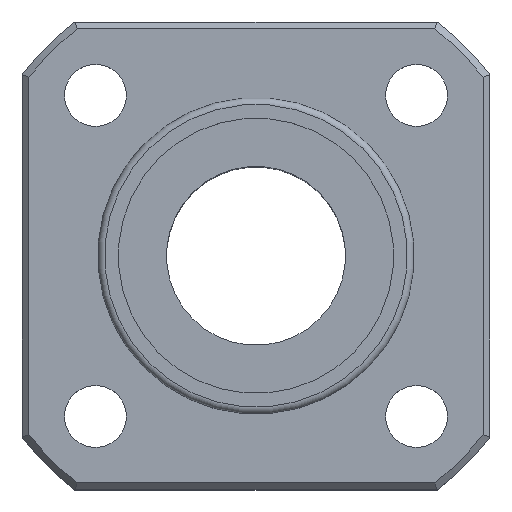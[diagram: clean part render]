
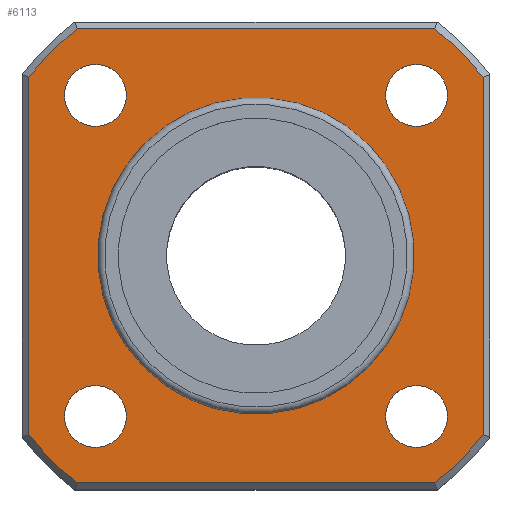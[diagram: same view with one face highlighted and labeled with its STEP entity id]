
A CAD part, top view. The second image highlights one B-rep face of the part: STEP entity #6113.
In plain terms, the highlighted planar face has unit normal (0, 0, 1).
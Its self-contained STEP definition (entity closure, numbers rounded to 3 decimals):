
#129=CIRCLE('',#6486,21.);
#131=CIRCLE('',#6491,21.);
#134=CIRCLE('',#6497,21.);
#150=CIRCLE('',#6521,11.5);
#156=CIRCLE('',#6532,21.);
#157=CIRCLE('',#6533,2.25);
#158=CIRCLE('',#6534,2.25);
#159=CIRCLE('',#6535,2.25);
#160=CIRCLE('',#6536,2.25);
#633=ORIENTED_EDGE('',*,*,#2347,.T.);
#634=ORIENTED_EDGE('',*,*,#2389,.T.);
#635=ORIENTED_EDGE('',*,*,#2354,.T.);
#636=ORIENTED_EDGE('',*,*,#2390,.T.);
#637=ORIENTED_EDGE('',*,*,#2363,.T.);
#638=ORIENTED_EDGE('',*,*,#2391,.T.);
#639=ORIENTED_EDGE('',*,*,#2392,.T.);
#640=ORIENTED_EDGE('',*,*,#2393,.T.);
#641=ORIENTED_EDGE('',*,*,#2394,.F.);
#642=ORIENTED_EDGE('',*,*,#2395,.F.);
#643=ORIENTED_EDGE('',*,*,#2396,.F.);
#644=ORIENTED_EDGE('',*,*,#2397,.F.);
#645=ORIENTED_EDGE('',*,*,#2381,.T.);
#2347=EDGE_CURVE('',#3230,#3229,#129,.T.);
#2354=EDGE_CURVE('',#3233,#3234,#131,.T.);
#2363=EDGE_CURVE('',#3239,#3240,#134,.T.);
#2381=EDGE_CURVE('',#3257,#3257,#150,.F.);
#2389=EDGE_CURVE('',#3229,#3233,#3760,.T.);
#2390=EDGE_CURVE('',#3234,#3239,#3761,.T.);
#2391=EDGE_CURVE('',#3240,#3264,#3762,.T.);
#2392=EDGE_CURVE('',#3264,#3265,#156,.T.);
#2393=EDGE_CURVE('',#3265,#3230,#3763,.T.);
#2394=EDGE_CURVE('',#3266,#3266,#157,.T.);
#2395=EDGE_CURVE('',#3267,#3267,#158,.T.);
#2396=EDGE_CURVE('',#3268,#3268,#159,.T.);
#2397=EDGE_CURVE('',#3269,#3269,#160,.T.);
#3229=VERTEX_POINT('',#9647);
#3230=VERTEX_POINT('',#9649);
#3233=VERTEX_POINT('',#9671);
#3234=VERTEX_POINT('',#9672);
#3239=VERTEX_POINT('',#9701);
#3240=VERTEX_POINT('',#9702);
#3257=VERTEX_POINT('',#9751);
#3264=VERTEX_POINT('',#9773);
#3265=VERTEX_POINT('',#9775);
#3266=VERTEX_POINT('',#9778);
#3267=VERTEX_POINT('',#9780);
#3268=VERTEX_POINT('',#9782);
#3269=VERTEX_POINT('',#9784);
#3760=LINE('',#9770,#4450);
#3761=LINE('',#9771,#4451);
#3762=LINE('',#9772,#4452);
#3763=LINE('',#9776,#4453);
#4450=VECTOR('',#7154,1000.);
#4451=VECTOR('',#7155,1000.);
#4452=VECTOR('',#7156,1000.);
#4453=VECTOR('',#7159,1000.);
#5010=EDGE_LOOP('',(#633,#634,#635,#636,#637,#638,#639,#640));
#5011=EDGE_LOOP('',(#641));
#5012=EDGE_LOOP('',(#642));
#5013=EDGE_LOOP('',(#643));
#5014=EDGE_LOOP('',(#644));
#5015=EDGE_LOOP('',(#645));
#5454=FACE_BOUND('',#5010,.T.);
#5455=FACE_BOUND('',#5011,.T.);
#5456=FACE_BOUND('',#5012,.T.);
#5457=FACE_BOUND('',#5013,.T.);
#5458=FACE_BOUND('',#5014,.T.);
#5459=FACE_BOUND('',#5015,.T.);
#5829=PLANE('',#6531);
#6113=ADVANCED_FACE('',(#5454,#5455,#5456,#5457,#5458,#5459),#5829,.T.);
#6486=AXIS2_PLACEMENT_3D('',#9648,#7056,#7057);
#6491=AXIS2_PLACEMENT_3D('',#9670,#7068,#7069);
#6497=AXIS2_PLACEMENT_3D('',#9700,#7082,#7083);
#6521=AXIS2_PLACEMENT_3D('',#9750,#7130,#7131);
#6531=AXIS2_PLACEMENT_3D('',#9769,#7152,#7153);
#6532=AXIS2_PLACEMENT_3D('',#9774,#7157,#7158);
#6533=AXIS2_PLACEMENT_3D('',#9777,#7160,#7161);
#6534=AXIS2_PLACEMENT_3D('',#9779,#7162,#7163);
#6535=AXIS2_PLACEMENT_3D('',#9781,#7164,#7165);
#6536=AXIS2_PLACEMENT_3D('',#9783,#7166,#7167);
#7056=DIRECTION('',(0.,0.,1.));
#7057=DIRECTION('',(0.707,-0.707,0.));
#7068=DIRECTION('',(0.,0.,1.));
#7069=DIRECTION('',(0.707,-0.707,0.));
#7082=DIRECTION('',(0.,0.,1.));
#7083=DIRECTION('',(0.707,-0.707,0.));
#7130=DIRECTION('',(0.,0.,1.));
#7131=DIRECTION('',(0.707,-0.707,0.));
#7152=DIRECTION('',(0.,0.,1.));
#7153=DIRECTION('',(0.707,-0.707,0.));
#7154=DIRECTION('',(0.,-1.,0.));
#7155=DIRECTION('',(1.,0.,0.));
#7156=DIRECTION('',(0.,1.,0.));
#7157=DIRECTION('',(0.,0.,1.));
#7158=DIRECTION('',(0.707,-0.707,0.));
#7159=DIRECTION('',(-1.,0.,0.));
#7160=DIRECTION('',(0.,0.,1.));
#7161=DIRECTION('',(0.707,-0.707,0.));
#7162=DIRECTION('',(0.,0.,1.));
#7163=DIRECTION('',(0.707,-0.707,0.));
#7164=DIRECTION('',(0.,0.,1.));
#7165=DIRECTION('',(0.707,-0.707,0.));
#7166=DIRECTION('',(0.,0.,1.));
#7167=DIRECTION('',(0.707,-0.707,0.));
#9647=CARTESIAN_POINT('',(-16.5,12.99,0.));
#9648=CARTESIAN_POINT('',(0.,0.,0.));
#9649=CARTESIAN_POINT('',(-12.99,16.5,0.));
#9670=CARTESIAN_POINT('',(0.,0.,0.));
#9671=CARTESIAN_POINT('',(-16.5,-12.99,0.));
#9672=CARTESIAN_POINT('',(-12.99,-16.5,0.));
#9700=CARTESIAN_POINT('',(0.,0.,0.));
#9701=CARTESIAN_POINT('',(12.99,-16.5,0.));
#9702=CARTESIAN_POINT('',(16.5,-12.99,0.));
#9750=CARTESIAN_POINT('',(0.,0.,0.));
#9751=CARTESIAN_POINT('',(8.132,-8.132,0.));
#9769=CARTESIAN_POINT('',(0.,0.,0.));
#9770=CARTESIAN_POINT('',(-16.5,-12.329,0.));
#9771=CARTESIAN_POINT('',(12.329,-16.5,0.));
#9772=CARTESIAN_POINT('',(16.5,12.329,0.));
#9773=CARTESIAN_POINT('',(16.5,12.99,0.));
#9774=CARTESIAN_POINT('',(0.,0.,0.));
#9775=CARTESIAN_POINT('',(12.99,16.5,0.));
#9776=CARTESIAN_POINT('',(-12.329,16.5,0.));
#9777=CARTESIAN_POINT('',(11.667,11.667,0.));
#9778=CARTESIAN_POINT('',(13.258,10.076,0.));
#9779=CARTESIAN_POINT('',(-11.667,11.667,0.));
#9780=CARTESIAN_POINT('',(-10.076,10.076,0.));
#9781=CARTESIAN_POINT('',(-11.667,-11.667,0.));
#9782=CARTESIAN_POINT('',(-10.076,-13.258,0.));
#9783=CARTESIAN_POINT('',(11.667,-11.667,0.));
#9784=CARTESIAN_POINT('',(13.258,-13.258,0.));
